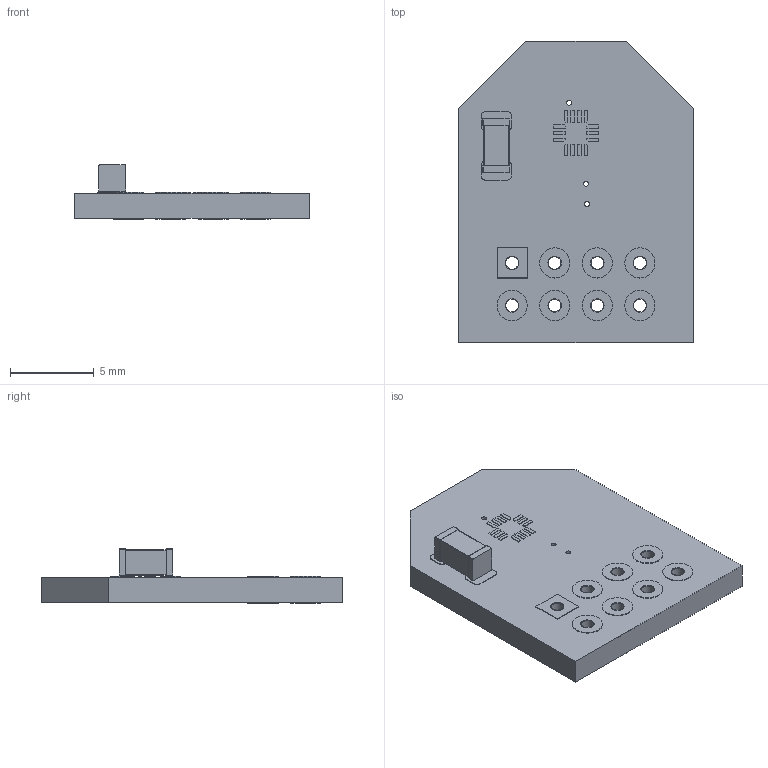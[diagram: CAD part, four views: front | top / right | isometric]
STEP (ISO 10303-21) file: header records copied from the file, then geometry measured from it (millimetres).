
FILE_DESCRIPTION(('KiCad electronic assembly'),'2;1');
FILE_NAME('Encoder.step','2026-11-04T23:05:51',('Pcbnew'),('Kicad'), 'Open CASCADE STEP processor 7.9','KiCad to STEP converter','Unknown' );
FILE_SCHEMA(('AUTOMOTIVE_DESIGN { 1 0 10303 214 1 1 1 1 }'));
Length unit declared in the file: millimetre
Products named in the file (5): Encoder 1; C_1206_3216Metric; Encoder_pad; Encoder_PCB
Assembly tree (4 placements, depth 3):
  Encoder 1
    C_1206_3216Metric
      C_1206_3216Metric
    Encoder_pad
    Encoder_PCB
Bounding box: 14 x 18 x 3.23 mm (x, y, z)
Volume: 360 mm3; surface area: 764.4 mm2
Topology: 42 solids, 42 shells, 261 faces, 525 edges, 350 vertices
Faces by surface type: plane 184, cylinder 77
Full cylindrical faces by diameter (mm): 0.3 x3, 0.75 x24, 0.8 x16, 1.8 x14
Entity records: 7423 total; most frequent: DIRECTION 1211, CARTESIAN_POINT 1141, ORIENTED_EDGE 1050, EDGE_CURVE 525, AXIS2_PLACEMENT_3D 420, LINE 371, VECTOR 371, VERTEX_POINT 350
